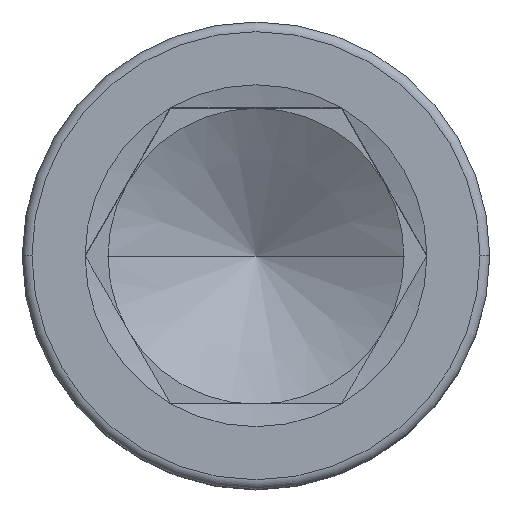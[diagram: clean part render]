
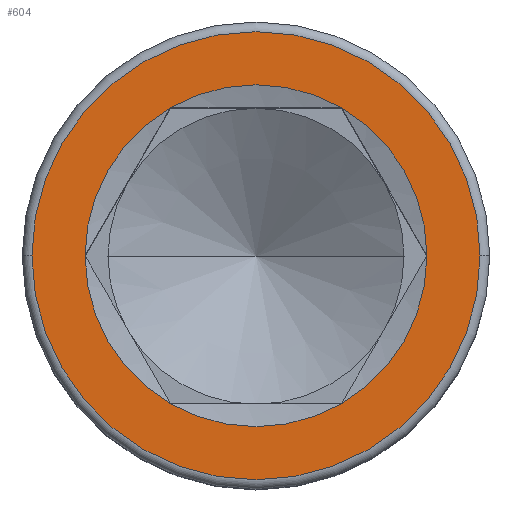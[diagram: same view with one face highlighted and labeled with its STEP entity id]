
A CAD part, top view. The second image highlights one B-rep face of the part: STEP entity #604.
In plain terms, the highlighted planar face has unit normal (0, 0, 1).
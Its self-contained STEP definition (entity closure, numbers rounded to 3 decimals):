
#21 = ORIENTED_EDGE ( 'NONE', *, *, #64, .F. ) ;
#23 = DIRECTION ( 'NONE',  ( 1., 0., 0. ) ) ;
#38 = EDGE_CURVE ( 'NONE', #1244, #1698, #1165, .T. ) ;
#63 = DIRECTION ( 'NONE',  ( 0., 0., 1. ) ) ;
#64 = EDGE_CURVE ( 'NONE', #1831, #1259, #1322, .T. ) ;
#114 = DIRECTION ( 'NONE',  ( 1., 0., 0. ) ) ;
#132 = FACE_BOUND ( 'NONE', #740, .T. ) ;
#235 = AXIS2_PLACEMENT_3D ( 'NONE', #602, #1548, #1842 ) ;
#276 = CARTESIAN_POINT ( 'NONE',  ( 0., 0., 20. ) ) ;
#289 = AXIS2_PLACEMENT_3D ( 'NONE', #561, #1176, #114 ) ;
#344 = CIRCLE ( 'NONE', #807, 14.38 ) ;
#408 = CIRCLE ( 'NONE', #514, 10.97 ) ;
#492 = DIRECTION ( 'NONE',  ( 0., 0., 1. ) ) ;
#514 = AXIS2_PLACEMENT_3D ( 'NONE', #962, #687, #981 ) ;
#526 = VERTEX_POINT ( 'NONE', #533 ) ;
#533 = CARTESIAN_POINT ( 'NONE',  ( 14.38, 0., 20. ) ) ;
#542 = DIRECTION ( 'NONE',  ( 1., 0., 0. ) ) ;
#561 = CARTESIAN_POINT ( 'NONE',  ( 0., 0., 20. ) ) ;
#590 = FACE_OUTER_BOUND ( 'NONE', #892, .T. ) ;
#602 = CARTESIAN_POINT ( 'NONE',  ( 0., 0., 20. ) ) ;
#604 = ADVANCED_FACE ( 'NONE', ( #590, #132 ), #1373, .T. ) ;
#616 = DIRECTION ( 'NONE',  ( 0., 0., 1. ) ) ;
#645 = EDGE_CURVE ( 'NONE', #1698, #1778, #1816, .T. ) ;
#687 = DIRECTION ( 'NONE',  ( 0., 0., 1. ) ) ;
#736 = DIRECTION ( 'NONE',  ( 0., 0., 1. ) ) ;
#740 = EDGE_LOOP ( 'NONE', ( #21, #1507, #1966, #1491, #1278, #999 ) ) ;
#807 = AXIS2_PLACEMENT_3D ( 'NONE', #1516, #1986, #1704 ) ;
#820 = CARTESIAN_POINT ( 'NONE',  ( 10.97, 0., 20. ) ) ;
#892 = EDGE_LOOP ( 'NONE', ( #1038, #1579 ) ) ;
#904 = CARTESIAN_POINT ( 'NONE',  ( 5.485, -9.5, 20. ) ) ;
#918 = CARTESIAN_POINT ( 'NONE',  ( -5.485, 9.5, 20. ) ) ;
#962 = CARTESIAN_POINT ( 'NONE',  ( 0., 0., 20. ) ) ;
#981 = DIRECTION ( 'NONE',  ( 1., 0., 0. ) ) ;
#999 = ORIENTED_EDGE ( 'NONE', *, *, #1757, .F. ) ;
#1033 = CARTESIAN_POINT ( 'NONE',  ( 5.485, 9.5, 20. ) ) ;
#1038 = ORIENTED_EDGE ( 'NONE', *, *, #1745, .T. ) ;
#1058 = AXIS2_PLACEMENT_3D ( 'NONE', #1431, #63, #542 ) ;
#1066 = VERTEX_POINT ( 'NONE', #1666 ) ;
#1124 = CIRCLE ( 'NONE', #1058, 10.97 ) ;
#1129 = AXIS2_PLACEMENT_3D ( 'NONE', #1964, #616, #1483 ) ;
#1135 = AXIS2_PLACEMENT_3D ( 'NONE', #1725, #492, #23 ) ;
#1165 = CIRCLE ( 'NONE', #289, 10.97 ) ;
#1176 = DIRECTION ( 'NONE',  ( 0., 0., 1. ) ) ;
#1191 = CARTESIAN_POINT ( 'NONE',  ( 0., 0., 20. ) ) ;
#1206 = EDGE_CURVE ( 'NONE', #1066, #526, #1509, .T. ) ;
#1244 = VERTEX_POINT ( 'NONE', #918 ) ;
#1245 = CARTESIAN_POINT ( 'NONE',  ( -5.485, -9.5, 20. ) ) ;
#1259 = VERTEX_POINT ( 'NONE', #1033 ) ;
#1278 = ORIENTED_EDGE ( 'NONE', *, *, #38, .F. ) ;
#1322 = CIRCLE ( 'NONE', #1135, 10.97 ) ;
#1334 = VERTEX_POINT ( 'NONE', #904 ) ;
#1373 = PLANE ( 'NONE',  #1720 ) ;
#1397 = CARTESIAN_POINT ( 'NONE',  ( -10.97, 0., 20. ) ) ;
#1401 = EDGE_CURVE ( 'NONE', #1334, #1831, #1124, .T. ) ;
#1431 = CARTESIAN_POINT ( 'NONE',  ( 0., 0., 20. ) ) ;
#1483 = DIRECTION ( 'NONE',  ( 1., 0., 0. ) ) ;
#1490 = DIRECTION ( 'NONE',  ( 1., 0., 0. ) ) ;
#1491 = ORIENTED_EDGE ( 'NONE', *, *, #645, .F. ) ;
#1507 = ORIENTED_EDGE ( 'NONE', *, *, #1401, .F. ) ;
#1509 = CIRCLE ( 'NONE', #1129, 14.38 ) ;
#1516 = CARTESIAN_POINT ( 'NONE',  ( 0., 0., 20. ) ) ;
#1520 = AXIS2_PLACEMENT_3D ( 'NONE', #276, #736, #1658 ) ;
#1548 = DIRECTION ( 'NONE',  ( 0., 0., 1. ) ) ;
#1579 = ORIENTED_EDGE ( 'NONE', *, *, #1206, .T. ) ;
#1658 = DIRECTION ( 'NONE',  ( 1., 0., 0. ) ) ;
#1666 = CARTESIAN_POINT ( 'NONE',  ( -14.38, 0., 20. ) ) ;
#1669 = DIRECTION ( 'NONE',  ( 0., 0., 1. ) ) ;
#1698 = VERTEX_POINT ( 'NONE', #1397 ) ;
#1704 = DIRECTION ( 'NONE',  ( 1., 0., 0. ) ) ;
#1720 = AXIS2_PLACEMENT_3D ( 'NONE', #1191, #1669, #1490 ) ;
#1725 = CARTESIAN_POINT ( 'NONE',  ( 0., 0., 20. ) ) ;
#1745 = EDGE_CURVE ( 'NONE', #526, #1066, #344, .T. ) ;
#1757 = EDGE_CURVE ( 'NONE', #1259, #1244, #1994, .T. ) ;
#1778 = VERTEX_POINT ( 'NONE', #1245 ) ;
#1793 = EDGE_CURVE ( 'NONE', #1778, #1334, #408, .T. ) ;
#1816 = CIRCLE ( 'NONE', #1520, 10.97 ) ;
#1831 = VERTEX_POINT ( 'NONE', #820 ) ;
#1842 = DIRECTION ( 'NONE',  ( 1., 0., 0. ) ) ;
#1964 = CARTESIAN_POINT ( 'NONE',  ( 0., 0., 20. ) ) ;
#1966 = ORIENTED_EDGE ( 'NONE', *, *, #1793, .F. ) ;
#1986 = DIRECTION ( 'NONE',  ( 0., 0., 1. ) ) ;
#1994 = CIRCLE ( 'NONE', #235, 10.97 ) ;
